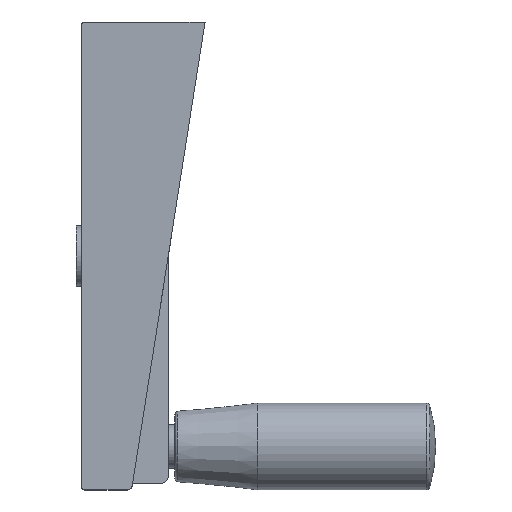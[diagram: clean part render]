
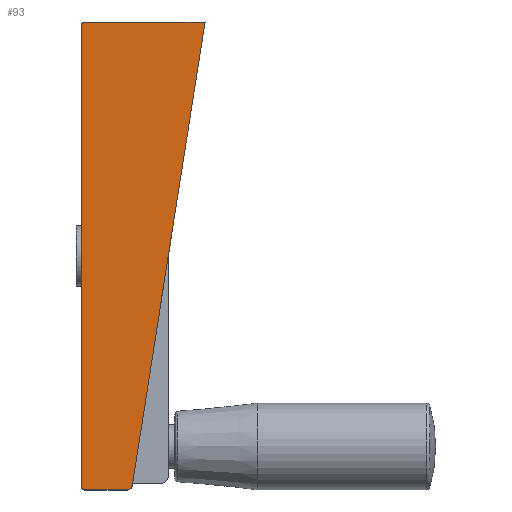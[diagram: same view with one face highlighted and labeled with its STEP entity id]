
A CAD part, top view. The second image highlights one B-rep face of the part: STEP entity #93.
In plain terms, the highlighted planar face has unit normal (0, -0.021, 1).
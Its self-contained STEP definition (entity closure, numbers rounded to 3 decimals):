
#93 = ADVANCED_FACE( '', ( #150 ), #151, .F. );
#150 = FACE_OUTER_BOUND( '', #218, .T. );
#151 = PLANE( '', #219 );
#218 = EDGE_LOOP( '', ( #357, #358, #359, #360, #361, #362, #363, #364, #365, #366, #367 ) );
#219 = AXIS2_PLACEMENT_3D( '', #368, #369, #370 );
#357 = ORIENTED_EDGE( '', *, *, #484, .F. );
#358 = ORIENTED_EDGE( '', *, *, #481, .F. );
#359 = ORIENTED_EDGE( '', *, *, #485, .F. );
#360 = ORIENTED_EDGE( '', *, *, #486, .F. );
#361 = ORIENTED_EDGE( '', *, *, #468, .F. );
#362 = ORIENTED_EDGE( '', *, *, #465, .F. );
#363 = ORIENTED_EDGE( '', *, *, #461, .F. );
#364 = ORIENTED_EDGE( '', *, *, #458, .F. );
#365 = ORIENTED_EDGE( '', *, *, #455, .F. );
#366 = ORIENTED_EDGE( '', *, *, #452, .F. );
#367 = ORIENTED_EDGE( '', *, *, #445, .F. );
#368 = CARTESIAN_POINT( '', ( 38., 0., 15. ) );
#369 = DIRECTION( '', ( 0., 0.021, -1. ) );
#370 = DIRECTION( '', ( 0., 1., 0.021 ) );
#445 = EDGE_CURVE( '', #509, #511, #512, .T. );
#452 = EDGE_CURVE( '', #511, #519, #523, .T. );
#455 = EDGE_CURVE( '', #519, #524, #528, .T. );
#458 = EDGE_CURVE( '', #524, #529, #533, .T. );
#461 = EDGE_CURVE( '', #529, #534, #538, .T. );
#465 = EDGE_CURVE( '', #534, #541, #545, .T. );
#468 = EDGE_CURVE( '', #541, #546, #550, .T. );
#481 = EDGE_CURVE( '', #571, #573, #574, .T. );
#484 = EDGE_CURVE( '', #573, #509, #578, .T. );
#485 = EDGE_CURVE( '', #579, #571, #580, .T. );
#486 = EDGE_CURVE( '', #546, #579, #581, .T. );
#509 = VERTEX_POINT( '', #611 );
#511 = VERTEX_POINT( '', #614 );
#512 = LINE( '', #615, #616 );
#519 = VERTEX_POINT( '', #625 );
#523 = LINE( '', #631, #632 );
#524 = VERTEX_POINT( '', #633 );
#528 = ELLIPSE( '', #638, 1.5, 1.5 );
#529 = VERTEX_POINT( '', #639 );
#533 = LINE( '', #645, #646 );
#534 = VERTEX_POINT( '', #647 );
#538 = ELLIPSE( '', #652, 1., 1. );
#541 = VERTEX_POINT( '', #655 );
#545 = LINE( '', #661, #662 );
#546 = VERTEX_POINT( '', #663 );
#550 = ELLIPSE( '', #668, 1., 1. );
#571 = VERTEX_POINT( '', #692 );
#573 = VERTEX_POINT( '', #695 );
#574 = LINE( '', #696, #697 );
#578 = LINE( '', #703, #704 );
#579 = VERTEX_POINT( '', #705 );
#580 = LINE( '', #706, #707 );
#581 = LINE( '', #708, #709 );
#611 = CARTESIAN_POINT( '', ( 15.316, -138., 12.043 ) );
#614 = CARTESIAN_POINT( '', ( 15.314, -138., 12.043 ) );
#615 = CARTESIAN_POINT( '', ( 15.314, -138., 12.043 ) );
#616 = VECTOR( '', #737, 1000. );
#625 = CARTESIAN_POINT( '', ( 15.199, -138.733, 12.027 ) );
#631 = CARTESIAN_POINT( '', ( 15.258, -138.357, 12.035 ) );
#632 = VECTOR( '', #748, 1000. );
#633 = CARTESIAN_POINT( '', ( 13.717, -140., 12. ) );
#638 = AXIS2_PLACEMENT_3D( '', #753, #754, #755 );
#639 = CARTESIAN_POINT( '', ( 1., -140., 12. ) );
#645 = CARTESIAN_POINT( '', ( 38., -140., 12. ) );
#646 = VECTOR( '', #758, 1000. );
#647 = CARTESIAN_POINT( '', ( 0., -139., 12.021 ) );
#652 = AXIS2_PLACEMENT_3D( '', #763, #764, #765 );
#655 = CARTESIAN_POINT( '', ( 0., -1., 14.979 ) );
#661 = CARTESIAN_POINT( '', ( 0., -0.678, 14.985 ) );
#662 = VECTOR( '', #771, 1000. );
#663 = CARTESIAN_POINT( '', ( 1., 0., 15. ) );
#668 = AXIS2_PLACEMENT_3D( '', #776, #777, #778 );
#692 = CARTESIAN_POINT( '', ( 26., -70., 13.5 ) );
#695 = CARTESIAN_POINT( '', ( 26., -70.006, 13.5 ) );
#696 = CARTESIAN_POINT( '', ( 26., -135.616, 12.094 ) );
#697 = VECTOR( '', #804, 1000. );
#703 = CARTESIAN_POINT( '', ( 37.024, 0.153, 15.003 ) );
#704 = VECTOR( '', #807, 1000. );
#705 = CARTESIAN_POINT( '', ( 37., 0., 15. ) );
#706 = CARTESIAN_POINT( '', ( 26.054, -69.655, 13.507 ) );
#707 = VECTOR( '', #808, 1000. );
#708 = CARTESIAN_POINT( '', ( 37., 0., 15. ) );
#709 = VECTOR( '', #809, 1000. );
#737 = DIRECTION( '', ( -1., 0., 0. ) );
#748 = DIRECTION( '', ( -0.155, -0.988, -0.021 ) );
#753 = CARTESIAN_POINT( '', ( 13.717, -138.5, 12.032 ) );
#754 = DIRECTION( '', ( 0., 0.021, -1. ) );
#755 = DIRECTION( '', ( 0., -1., -0.021 ) );
#758 = DIRECTION( '', ( -1., 0., 0. ) );
#763 = CARTESIAN_POINT( '', ( 1., -139., 12.021 ) );
#764 = DIRECTION( '', ( 0., 0.021, -1. ) );
#765 = DIRECTION( '', ( 0., -1., -0.021 ) );
#771 = DIRECTION( '', ( 0., 1., 0.021 ) );
#776 = CARTESIAN_POINT( '', ( 1., -1., 14.979 ) );
#777 = DIRECTION( '', ( 0., 0.021, -1. ) );
#778 = DIRECTION( '', ( 0., -1., -0.021 ) );
#804 = DIRECTION( '', ( 0., -1., -0.021 ) );
#807 = DIRECTION( '', ( -0.155, -0.988, -0.021 ) );
#808 = DIRECTION( '', ( -0.155, -0.988, -0.021 ) );
#809 = DIRECTION( '', ( 1., 0., 0. ) );
